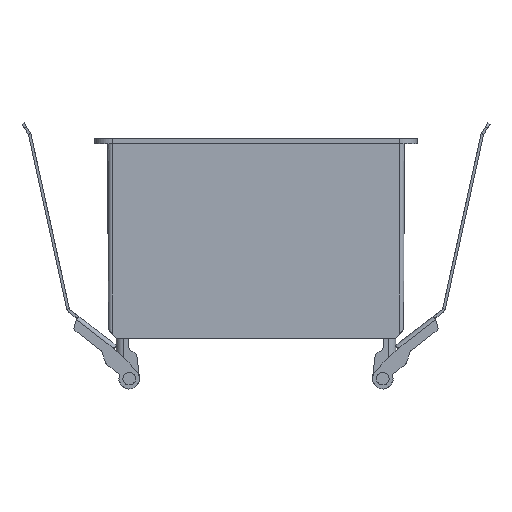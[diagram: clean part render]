
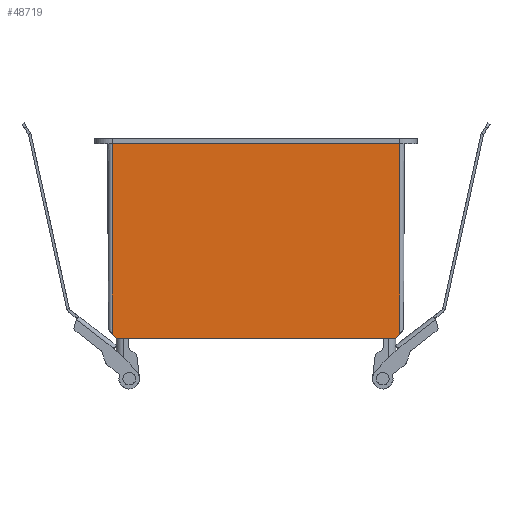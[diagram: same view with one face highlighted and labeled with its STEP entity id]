
A CAD part, front view. The second image highlights one B-rep face of the part: STEP entity #48719.
In plain terms, the highlighted planar face has unit normal (0, -1, -0.006).
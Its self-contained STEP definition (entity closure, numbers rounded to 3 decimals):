
#11031=FACE_OUTER_BOUND('',#14060,.T.);
#14060=EDGE_LOOP('',(#44628,#44629,#44630,#44631,#44632,#44633));
#15977=LINE('',#158596,#18014);
#15988=LINE('',#158630,#18025);
#15989=LINE('',#158633,#18026);
#15990=LINE('',#158639,#18027);
#16029=LINE('',#158775,#18066);
#16055=LINE('',#158847,#18092);
#18014=VECTOR('',#65940,10.);
#18025=VECTOR('',#65971,10.);
#18026=VECTOR('',#65974,10.);
#18027=VECTOR('',#65981,10.);
#18066=VECTOR('',#66126,10.);
#18092=VECTOR('',#66208,10.);
#22556=VERTEX_POINT('',#158582);
#22562=VERTEX_POINT('',#158594);
#22575=VERTEX_POINT('',#158628);
#22576=VERTEX_POINT('',#158632);
#22577=VERTEX_POINT('',#158636);
#22622=VERTEX_POINT('',#158774);
#29873=EDGE_CURVE('',#22556,#22562,#15977,.T.);
#29890=EDGE_CURVE('',#22562,#22575,#15988,.F.);
#29891=EDGE_CURVE('',#22556,#22576,#15989,.T.);
#29894=EDGE_CURVE('',#22575,#22577,#15990,.T.);
#29962=EDGE_CURVE('',#22622,#22576,#16029,.T.);
#29999=EDGE_CURVE('',#22622,#22577,#16055,.T.);
#44628=ORIENTED_EDGE('',*,*,#29873,.T.);
#44629=ORIENTED_EDGE('',*,*,#29890,.T.);
#44630=ORIENTED_EDGE('',*,*,#29894,.T.);
#44631=ORIENTED_EDGE('',*,*,#29999,.F.);
#44632=ORIENTED_EDGE('',*,*,#29962,.T.);
#44633=ORIENTED_EDGE('',*,*,#29891,.F.);
#45831=PLANE('',#54193);
#48719=ADVANCED_FACE('',(#11031),#45831,.T.);
#54193=AXIS2_PLACEMENT_3D('',#158848,#66209,#66210);
#65940=DIRECTION('',(0.643,0.005,-0.766));
#65971=DIRECTION('',(-1.,0.,0.));
#65974=DIRECTION('',(0.,-0.006,1.));
#65981=DIRECTION('',(0.643,-0.005,0.766));
#66126=DIRECTION('',(-1.,0.,0.));
#66208=DIRECTION('',(0.,0.006,-1.));
#66209=DIRECTION('center_axis',(0.,-1.,-0.006));
#66210=DIRECTION('ref_axis',(1.,0.,0.));
#158582=CARTESIAN_POINT('',(-57.097,-18.984,1.756));
#158594=CARTESIAN_POINT('',(-55.623,-18.974,0.));
#158596=CARTESIAN_POINT('',(-56.313,-18.979,0.822));
#158628=CARTESIAN_POINT('',(55.623,-18.974,0.));
#158630=CARTESIAN_POINT('',(-29.549,-18.974,0.));
#158632=CARTESIAN_POINT('',(-57.097,-19.447,77.5));
#158633=CARTESIAN_POINT('',(-57.097,-18.974,0.001));
#158636=CARTESIAN_POINT('',(57.097,-18.984,1.756));
#158639=CARTESIAN_POINT('',(31.896,-18.801,-28.277));
#158774=CARTESIAN_POINT('',(57.097,-19.447,77.5));
#158775=CARTESIAN_POINT('',(-29.549,-19.447,77.5));
#158847=CARTESIAN_POINT('',(57.097,-18.974,0.001));
#158848=CARTESIAN_POINT('Origin',(-59.097,-18.974,0.001));
